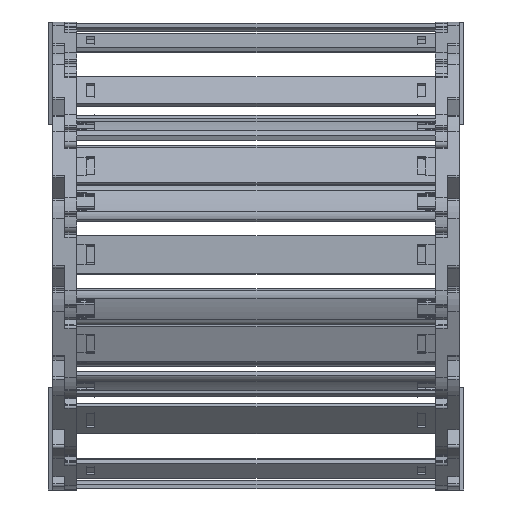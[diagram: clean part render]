
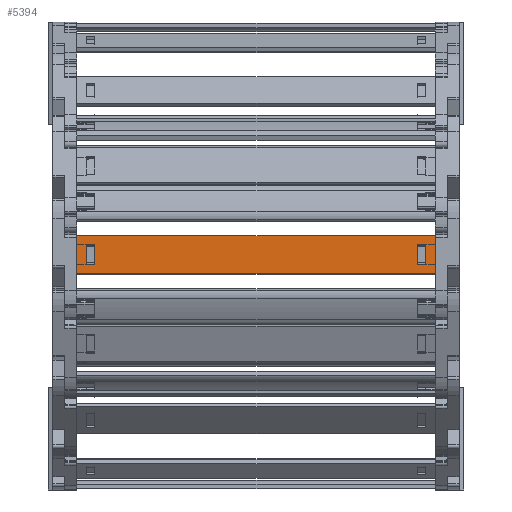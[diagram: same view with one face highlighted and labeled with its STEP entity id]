
A CAD part, left-side view. The second image highlights one B-rep face of the part: STEP entity #5394.
In plain terms, the highlighted planar face has unit normal (-1, 0, 0.007) as drawn and (0, 1, 0) by its records, which use the part's own axes.
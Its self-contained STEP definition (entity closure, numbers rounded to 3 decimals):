
#4814=DIRECTION('',(0.,0.,1.));
#4815=VECTOR('',#4814,15.8);
#4816=CARTESIAN_POINT('',(135.74,1.5,-7.9));
#4817=LINE('',#4816,#4815);
#4818=DIRECTION('',(-1.,0.,0.));
#4819=VECTOR('',#4818,150.5);
#4820=CARTESIAN_POINT('',(135.74,1.5,7.9));
#4821=LINE('',#4820,#4819);
#4822=DIRECTION('',(0.,0.,-1.));
#4823=VECTOR('',#4822,15.8);
#4824=CARTESIAN_POINT('',(-14.76,1.5,7.9));
#4825=LINE('',#4824,#4823);
#4826=DIRECTION('',(1.,0.,0.));
#4827=VECTOR('',#4826,3.648);
#4828=CARTESIAN_POINT('',(128.122,1.5,4.075));
#4829=LINE('',#4828,#4827);
#4830=DIRECTION('',(0.,0.,-1.));
#4831=VECTOR('',#4830,8.15);
#4832=CARTESIAN_POINT('',(131.77,1.5,4.075));
#4833=LINE('',#4832,#4831);
#4834=DIRECTION('',(-1.,0.,0.));
#4835=VECTOR('',#4834,3.648);
#4836=CARTESIAN_POINT('',(131.77,1.5,-4.075));
#4837=LINE('',#4836,#4835);
#4838=DIRECTION('',(0.,0.,-1.));
#4839=VECTOR('',#4838,8.15);
#4840=CARTESIAN_POINT('',(-7.142,1.5,4.075));
#4841=LINE('',#4840,#4839);
#4842=DIRECTION('',(-1.,0.,0.));
#4843=VECTOR('',#4842,3.648);
#4844=CARTESIAN_POINT('',(-7.142,1.5,-4.075));
#4845=LINE('',#4844,#4843);
#4846=DIRECTION('',(0.,0.,1.));
#4847=VECTOR('',#4846,8.15);
#4848=CARTESIAN_POINT('',(-10.79,1.5,-4.075));
#4849=LINE('',#4848,#4847);
#4850=DIRECTION('',(1.,0.,0.));
#4851=VECTOR('',#4850,3.648);
#4852=CARTESIAN_POINT('',(-10.79,1.5,4.075));
#4853=LINE('',#4852,#4851);
#4858=DIRECTION('',(-1.,0.,0.));
#4859=VECTOR('',#4858,150.5);
#4860=CARTESIAN_POINT('',(135.74,1.5,-7.9));
#4861=LINE('',#4860,#4859);
#4979=DIRECTION('',(0.,0.,-1.));
#4980=VECTOR('',#4979,8.15);
#4981=CARTESIAN_POINT('',(128.122,1.5,4.075));
#4982=LINE('',#4981,#4980);
#5164=CARTESIAN_POINT('',(131.77,1.5,4.075));
#5165=VERTEX_POINT('',#5164);
#5166=CARTESIAN_POINT('',(128.122,1.5,4.075));
#5167=VERTEX_POINT('',#5166);
#5208=CARTESIAN_POINT('',(128.122,1.5,-4.075));
#5209=VERTEX_POINT('',#5208);
#5210=CARTESIAN_POINT('',(131.77,1.5,-4.075));
#5211=VERTEX_POINT('',#5210);
#5212=CARTESIAN_POINT('',(135.74,1.5,7.9));
#5214=VERTEX_POINT('',#5212);
#5216=CARTESIAN_POINT('',(135.74,1.5,-7.9));
#5217=VERTEX_POINT('',#5216);
#5240=CARTESIAN_POINT('',(-7.142,1.5,4.075));
#5241=CARTESIAN_POINT('',(-7.142,1.5,-4.075));
#5242=VERTEX_POINT('',#5240);
#5243=VERTEX_POINT('',#5241);
#5244=CARTESIAN_POINT('',(-10.79,1.5,-4.075));
#5245=VERTEX_POINT('',#5244);
#5246=CARTESIAN_POINT('',(-10.79,1.5,4.075));
#5247=VERTEX_POINT('',#5246);
#5248=CARTESIAN_POINT('',(-14.76,1.5,7.9));
#5249=VERTEX_POINT('',#5248);
#5252=CARTESIAN_POINT('',(-14.76,1.5,-7.9));
#5253=VERTEX_POINT('',#5252);
#5363=CARTESIAN_POINT('',(167.48,1.5,10.061));
#5364=DIRECTION('',(0.,-1.,0.));
#5365=DIRECTION('',(0.,0.,-1.));
#5366=AXIS2_PLACEMENT_3D('',#5363,#5364,#5365);
#5367=PLANE('',#5366);
#5368=ORIENTED_EDGE('',*,*,#5302,.T.);
#5369=ORIENTED_EDGE('',*,*,#5328,.T.);
#5370=ORIENTED_EDGE('',*,*,#5341,.T.);
#5372=ORIENTED_EDGE('',*,*,#5371,.F.);
#5373=EDGE_LOOP('',(#5368,#5369,#5370,#5372));
#5374=FACE_OUTER_BOUND('',#5373,.F.);
#5376=ORIENTED_EDGE('',*,*,#5375,.F.);
#5377=ORIENTED_EDGE('',*,*,#5265,.T.);
#5379=ORIENTED_EDGE('',*,*,#5378,.T.);
#5381=ORIENTED_EDGE('',*,*,#5380,.T.);
#5382=EDGE_LOOP('',(#5376,#5377,#5379,#5381));
#5383=FACE_BOUND('',#5382,.F.);
#5385=ORIENTED_EDGE('',*,*,#5384,.T.);
#5387=ORIENTED_EDGE('',*,*,#5386,.T.);
#5389=ORIENTED_EDGE('',*,*,#5388,.T.);
#5391=ORIENTED_EDGE('',*,*,#5390,.T.);
#5392=EDGE_LOOP('',(#5385,#5387,#5389,#5391));
#5393=FACE_BOUND('',#5392,.F.);
#5394=ADVANCED_FACE('',(#5374,#5383,#5393),#5367,.F.);
#5265=EDGE_CURVE('',#5167,#5165,#4829,.T.);
#5302=EDGE_CURVE('',#5217,#5214,#4817,.T.);
#5328=EDGE_CURVE('',#5214,#5249,#4821,.T.);
#5341=EDGE_CURVE('',#5249,#5253,#4825,.T.);
#5371=EDGE_CURVE('',#5217,#5253,#4861,.T.);
#5375=EDGE_CURVE('',#5167,#5209,#4982,.T.);
#5378=EDGE_CURVE('',#5165,#5211,#4833,.T.);
#5380=EDGE_CURVE('',#5211,#5209,#4837,.T.);
#5384=EDGE_CURVE('',#5242,#5243,#4841,.T.);
#5386=EDGE_CURVE('',#5243,#5245,#4845,.T.);
#5388=EDGE_CURVE('',#5245,#5247,#4849,.T.);
#5390=EDGE_CURVE('',#5247,#5242,#4853,.T.);
